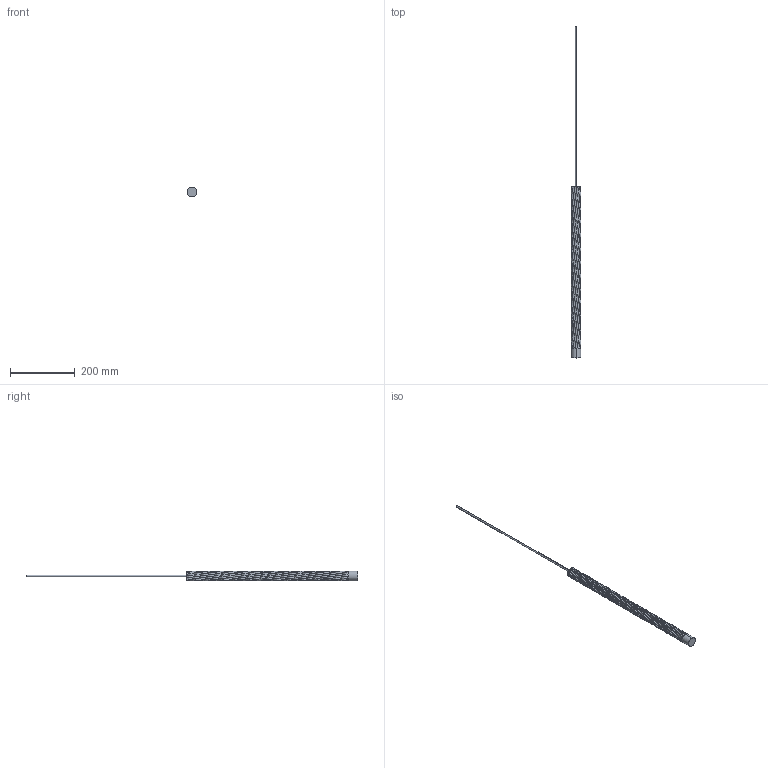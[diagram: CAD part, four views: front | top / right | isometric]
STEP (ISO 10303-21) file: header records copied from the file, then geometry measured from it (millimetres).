
FILE_DESCRIPTION (( 'STEP AP203' ), '1' );
FILE_NAME ('tob twist 50.STEP', '2022-11-21T00:08:39', ( '' ), ( '' ), 'SwSTEP 2.0', 'SolidWorks 2014', '' );
FILE_SCHEMA (( 'CONFIG_CONTROL_DESIGN' ));
Length unit declared in the file: millimetre
Products named in the file (1): tob twist 50
Bounding box: 30 x 1026 x 30 mm (x, y, z)
Volume: 315619 mm3; surface area: 80548.1 mm2
Topology: 3 solids, 3 shells, 275 faces, 704 edges, 436 vertices
Faces by surface type: bspline 144, cylinder 63, torus 37, plane 31
Entity records: 23715 total; most frequent: CARTESIAN_POINT 18045, ORIENTED_EDGE 1408, DIRECTION 837, EDGE_CURVE 704, VERTEX_POINT 436, AXIS2_PLACEMENT_3D 351, B_SPLINE_CURVE_WITH_KNOTS 350, EDGE_LOOP 278
